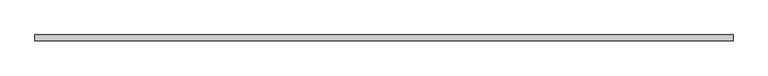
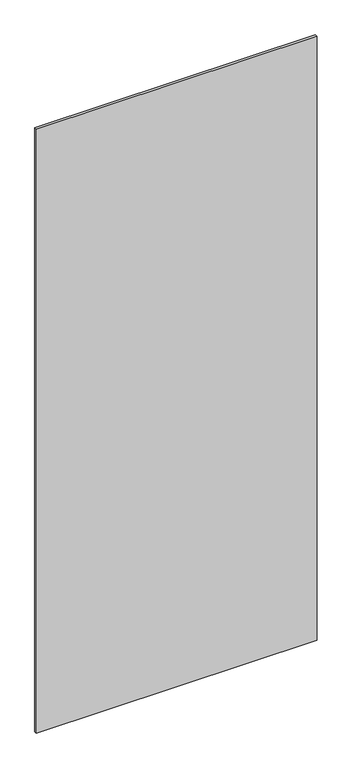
"""IFC4 building model written with IfcOpenShell, lengths in millimetres: plate geometry, 系統嵌板 : 玻璃 1.0cm."""

from ifc_helpers import new_model, si_unit, origin, origin_with_axes, place, context, project, spatial, polyline, outline, extrude, source, transform, mapped, element, save


def plate_4c41d92a(model_context):
    return source(origin(), model_context, "Body", "SweptSolid", [
        extrude(outline(polyline([(610.5319245, -5.0), (-610.5319245, -5.0), (-610.5319245, 5.0), (610.5319245, 5.0), (610.5319245, -5.0)])), origin_with_axes(), (0.0, 0.0, 1.0), 2775.0),
    ])


if __name__ == "__main__":
    model = new_model("IFC4")
    model_context = context("Model", 3, world=origin())
    ifc_project = project(units=[si_unit("LENGTHUNIT", "METRE", prefix="MILLI")], contexts=[model_context])
    site = spatial("IfcSite", under=ifc_project)
    building = spatial("IfcBuilding", under=site)
    placement = place(None, origin())
    plate_shape = plate_4c41d92a(model_context)
    element("IfcPlate", 1, ObjectType="系統嵌板 : 玻璃 1.0cm", at=placement, inside=building, context=model_context, shape_type="MappedRepresentation", body=[
        mapped(plate_shape, transform((0.0, 0.0, 0.0), x_axis=(1.0, 0.0, 0.0), y_axis=(0.0, 1.0, 0.0), z_axis=(0.0, 0.0, 1.0))),
    ])
    save(model, "model.ifc")
